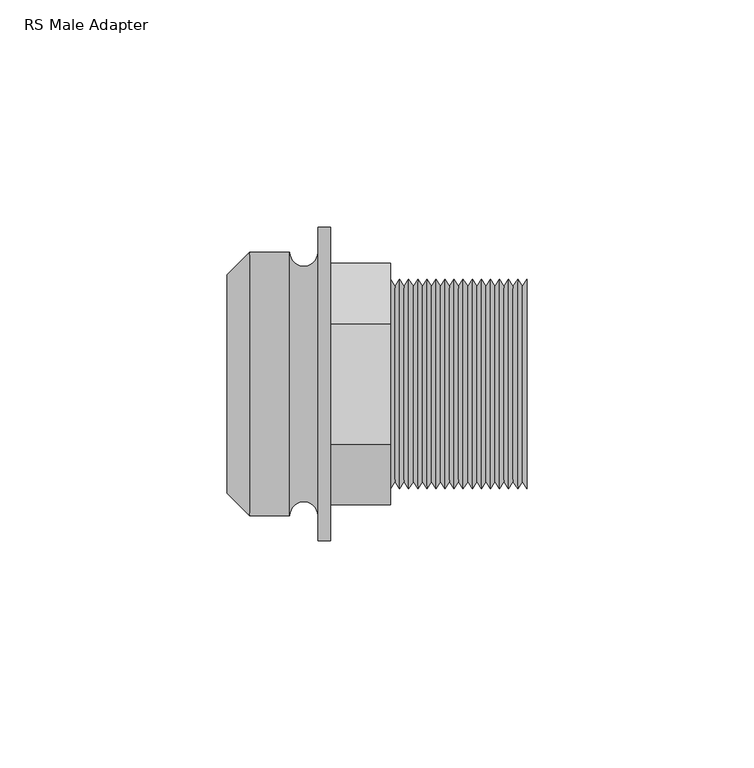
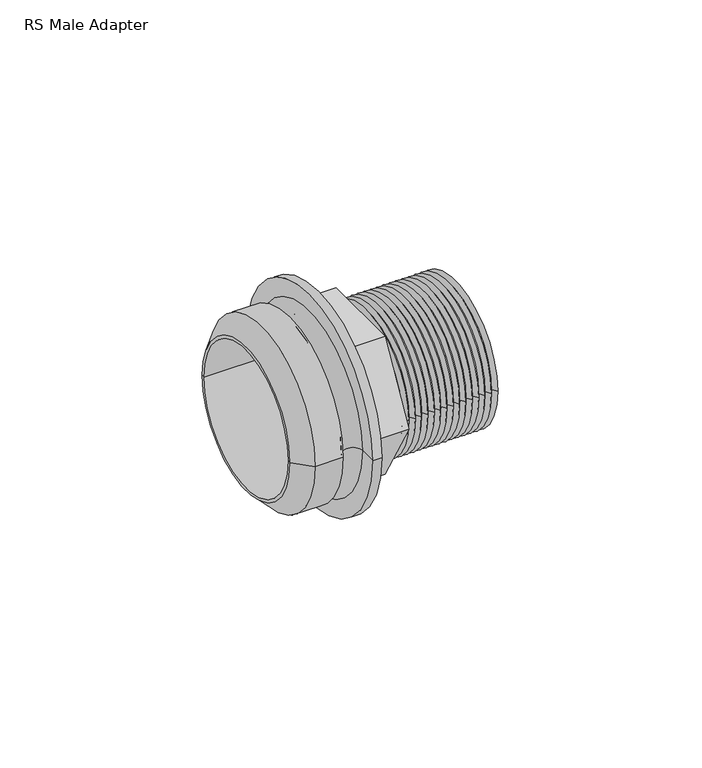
"""IFC4 building model written with IfcOpenShell, lengths in millimetres: pipe fitting geometry, RS Male Adapter : Superpipe RS2 MT Adapter 1 ½”."""

from ifc_helpers import new_model, si_unit, point, frame, origin, origin_2d, place, context, project, spatial, polyline, circle_curve, ellipse_curve, trimmed, segment, composite_curve, outline, extrude, source, transform, mapped, element, save
from ifc_brep_helpers import plane_surface, cylinder_surface, revolved_surface, advanced_brep


def rs_male_adapter_b5bc1ed4(model_context):
    return source(origin(), model_context, "Body", "SolidModel", [
        extrude(outline(polyline([(-26.5581124, 0.0), (-13.2790562, 23.0), (13.2790562, 23.0), (26.5581124, 0.0), (13.2790562, -23.0), (-13.2790562, -23.0), (-26.5581124, 0.0)]), holes=[composite_curve([segment(trimmed(circle_curve(origin_2d(), 18.8), [point((0.0, 18.8))], [point((0.0, -18.8))], True, "CARTESIAN"), True, "CONTINUOUS"), segment(trimmed(circle_curve(origin_2d(), 18.8), [point((0.0, -18.8))], [point((0.0, 18.8))], True, "CARTESIAN"), True, "CONTINUOUS")], self_intersect=False)]), frame((22.8, 0.0, 0.0), z_axis=(1.0, 0.0, 0.0), x_axis=(0.0, 1.0, 0.0)), (0.0, 0.0, 1.0), 13.2),
        advanced_brep(
        [(66.0, -23.0, 0.0), (66.0, 23.0, 0.0), (66.0, 18.8, 0.0), (66.0, -18.8, 0.0), (36.0, -18.8, 0.0), (36.0, 18.8, 0.0), (36.0, 23.0, 0.0), (36.0, -23.0, 0.0), (65.0, -21.5, 0.0), (65.0, 21.5, 0.0), (64.0, -23.0, 0.0), (64.0, 23.0, 0.0), (63.0, -21.5, 0.0), (63.0, 21.5, 0.0), (62.0, -23.0, 0.0), (62.0, 23.0, 0.0), (61.0, -21.5, 0.0), (61.0, 21.5, 0.0), (60.0, -23.0, 0.0), (60.0, 23.0, 0.0), (59.0, -21.5, 0.0), (59.0, 21.5, 0.0), (58.0, -23.0, 0.0), (58.0, 23.0, 0.0), (57.0, -21.5, 0.0), (57.0, 21.5, 0.0), (56.0, -23.0, 0.0), (56.0, 23.0, 0.0), (55.0, -21.5, 0.0), (55.0, 21.5, 0.0), (54.0, -23.0, 0.0), (54.0, 23.0, 0.0), (53.0, -21.5, 0.0), (53.0, 21.5, 0.0), (52.0, -23.0, 0.0), (52.0, 23.0, 0.0), (51.0, -21.5, 0.0), (51.0, 21.5, 0.0), (50.0, -23.0, 0.0), (50.0, 23.0, 0.0), (49.0, -21.5, 0.0), (49.0, 21.5, 0.0), (48.0, -23.0, 0.0), (48.0, 23.0, 0.0), (47.0, -21.5, 0.0), (47.0, 21.5, 0.0), (46.0, -23.0, 0.0), (46.0, 23.0, 0.0), (45.0, -21.5, 0.0), (45.0, 21.5, 0.0), (44.0, -23.0, 0.0), (44.0, 23.0, 0.0), (43.0, -21.5, 0.0), (43.0, 21.5, 0.0), (42.0, -23.0, 0.0), (42.0, 23.0, 0.0), (41.0, -21.5, 0.0), (41.0, 21.5, 0.0), (40.0, -23.0, 0.0), (40.0, 23.0, 0.0), (39.0, -21.5, 0.0), (39.0, 21.5, 0.0), (38.0, -23.0, 0.0), (38.0, 23.0, 0.0), (37.0, -21.5, 0.0), (37.0, 21.5, 0.0)],
        [
            (0, 1, circle_curve(frame((66.0, 0.0, 0.0), z_axis=(1.0, 0.0, 0.0), x_axis=(0.0, 1.0, 0.0)), 23.0)),
            (1, 2),
            (2, 3, circle_curve(frame((66.0, 0.0, 0.0), z_axis=(-1.0, 0.0, 0.0), x_axis=(0.0, 1.0, 0.0)), 18.8)),
            (3, 0),
            (4, 5, circle_curve(frame((36.0, 0.0, 0.0), z_axis=(1.0, 0.0, 0.0), x_axis=(0.0, 1.0, 0.0)), 18.8)),
            (5, 6),
            (6, 7, circle_curve(frame((36.0, 0.0, 0.0), z_axis=(-1.0, 0.0, 0.0), x_axis=(0.0, 1.0, 0.0)), 23.0)),
            (7, 4),
            (5, 4, circle_curve(frame((36.0, 0.0, 0.0), z_axis=(1.0, 0.0, 0.0), x_axis=(0.0, 1.0, 0.0)), 18.8)),
            (7, 6, circle_curve(frame((36.0, 0.0, 0.0), z_axis=(-1.0, 0.0, 0.0), x_axis=(0.0, 1.0, 0.0)), 23.0)),
            (1, 0, circle_curve(frame((66.0, 0.0, 0.0), z_axis=(1.0, 0.0, 0.0), x_axis=(0.0, 1.0, 0.0)), 23.0)),
            (3, 2, circle_curve(frame((66.0, 0.0, 0.0), z_axis=(-1.0, 0.0, 0.0), x_axis=(0.0, 1.0, 0.0)), 18.8)),
            (2, 5),
            (4, 3),
            (8, 9, circle_curve(frame((65.0, 0.0, 0.0), z_axis=(1.0, 0.0, 0.0), x_axis=(0.0, 1.0, 0.0)), 21.5)),
            (9, 1),
            (0, 8),
            (9, 8, circle_curve(frame((65.0, 0.0, 0.0), z_axis=(1.0, 0.0, 0.0), x_axis=(0.0, 1.0, 0.0)), 21.5)),
            (10, 11, circle_curve(frame((64.0, 0.0, 0.0), z_axis=(1.0, 0.0, 0.0), x_axis=(0.0, 1.0, 0.0)), 23.0)),
            (11, 9),
            (8, 10),
            (11, 10, circle_curve(frame((64.0, 0.0, 0.0), z_axis=(1.0, 0.0, 0.0), x_axis=(0.0, 1.0, 0.0)), 23.0)),
            (12, 13, circle_curve(frame((63.0, 0.0, 0.0), z_axis=(1.0, 0.0, 0.0), x_axis=(0.0, 1.0, 0.0)), 21.5)),
            (13, 11),
            (10, 12),
            (13, 12, circle_curve(frame((63.0, 0.0, 0.0), z_axis=(1.0, 0.0, 0.0), x_axis=(0.0, 1.0, 0.0)), 21.5)),
            (14, 15, circle_curve(frame((62.0, 0.0, 0.0), z_axis=(1.0, 0.0, 0.0), x_axis=(0.0, 1.0, 0.0)), 23.0)),
            (15, 13),
            (12, 14),
            (15, 14, circle_curve(frame((62.0, 0.0, 0.0), z_axis=(1.0, 0.0, 0.0), x_axis=(0.0, 1.0, 0.0)), 23.0)),
            (16, 17, circle_curve(frame((61.0, 0.0, 0.0), z_axis=(1.0, 0.0, 0.0), x_axis=(0.0, 1.0, 0.0)), 21.5)),
            (17, 15),
            (14, 16),
            (17, 16, circle_curve(frame((61.0, 0.0, 0.0), z_axis=(1.0, 0.0, 0.0), x_axis=(0.0, 1.0, 0.0)), 21.5)),
            (18, 19, circle_curve(frame((60.0, 0.0, 0.0), z_axis=(1.0, 0.0, 0.0), x_axis=(0.0, 1.0, 0.0)), 23.0)),
            (19, 17),
            (16, 18),
            (19, 18, circle_curve(frame((60.0, 0.0, 0.0), z_axis=(1.0, 0.0, 0.0), x_axis=(0.0, 1.0, 0.0)), 23.0)),
            (20, 21, circle_curve(frame((59.0, 0.0, 0.0), z_axis=(1.0, 0.0, 0.0), x_axis=(0.0, 1.0, 0.0)), 21.5)),
            (21, 19),
            (18, 20),
            (21, 20, circle_curve(frame((59.0, 0.0, 0.0), z_axis=(1.0, 0.0, 0.0), x_axis=(0.0, 1.0, 0.0)), 21.5)),
            (22, 23, circle_curve(frame((58.0, 0.0, 0.0), z_axis=(1.0, 0.0, 0.0), x_axis=(0.0, 1.0, 0.0)), 23.0)),
            (23, 21),
            (20, 22),
            (23, 22, circle_curve(frame((58.0, 0.0, 0.0), z_axis=(1.0, 0.0, 0.0), x_axis=(0.0, 1.0, 0.0)), 23.0)),
            (24, 25, circle_curve(frame((57.0, 0.0, 0.0), z_axis=(1.0, 0.0, 0.0), x_axis=(0.0, 1.0, 0.0)), 21.5)),
            (25, 23),
            (22, 24),
            (25, 24, circle_curve(frame((57.0, 0.0, 0.0), z_axis=(1.0, 0.0, 0.0), x_axis=(0.0, 1.0, 0.0)), 21.5)),
            (26, 27, circle_curve(frame((56.0, 0.0, 0.0), z_axis=(1.0, 0.0, 0.0), x_axis=(0.0, 1.0, 0.0)), 23.0)),
            (27, 25),
            (24, 26),
            (27, 26, circle_curve(frame((56.0, 0.0, 0.0), z_axis=(1.0, 0.0, 0.0), x_axis=(0.0, 1.0, 0.0)), 23.0)),
            (28, 29, circle_curve(frame((55.0, 0.0, 0.0), z_axis=(1.0, 0.0, 0.0), x_axis=(0.0, 1.0, 0.0)), 21.5)),
            (29, 27),
            (26, 28),
            (29, 28, circle_curve(frame((55.0, 0.0, 0.0), z_axis=(1.0, 0.0, 0.0), x_axis=(0.0, 1.0, 0.0)), 21.5)),
            (30, 31, circle_curve(frame((54.0, 0.0, 0.0), z_axis=(1.0, 0.0, 0.0), x_axis=(0.0, 1.0, 0.0)), 23.0)),
            (31, 29),
            (28, 30),
            (31, 30, circle_curve(frame((54.0, 0.0, 0.0), z_axis=(1.0, 0.0, 0.0), x_axis=(0.0, 1.0, 0.0)), 23.0)),
            (32, 33, circle_curve(frame((53.0, 0.0, 0.0), z_axis=(1.0, 0.0, 0.0), x_axis=(0.0, 1.0, 0.0)), 21.5)),
            (33, 31),
            (30, 32),
            (33, 32, circle_curve(frame((53.0, 0.0, 0.0), z_axis=(1.0, 0.0, 0.0), x_axis=(0.0, 1.0, 0.0)), 21.5)),
            (34, 35, circle_curve(frame((52.0, 0.0, 0.0), z_axis=(1.0, 0.0, 0.0), x_axis=(0.0, 1.0, 0.0)), 23.0)),
            (35, 33),
            (32, 34),
            (35, 34, circle_curve(frame((52.0, 0.0, 0.0), z_axis=(1.0, 0.0, 0.0), x_axis=(0.0, 1.0, 0.0)), 23.0)),
            (36, 37, circle_curve(frame((51.0, 0.0, 0.0), z_axis=(1.0, 0.0, 0.0), x_axis=(0.0, 1.0, 0.0)), 21.5)),
            (37, 35),
            (34, 36),
            (37, 36, circle_curve(frame((51.0, 0.0, 0.0), z_axis=(1.0, 0.0, 0.0), x_axis=(0.0, 1.0, 0.0)), 21.5)),
            (38, 39, circle_curve(frame((50.0, 0.0, 0.0), z_axis=(1.0, 0.0, 0.0), x_axis=(0.0, 1.0, 0.0)), 23.0)),
            (39, 37),
            (36, 38),
            (39, 38, circle_curve(frame((50.0, 0.0, 0.0), z_axis=(1.0, 0.0, 0.0), x_axis=(0.0, 1.0, 0.0)), 23.0)),
            (40, 41, circle_curve(frame((49.0, 0.0, 0.0), z_axis=(1.0, 0.0, 0.0), x_axis=(0.0, 1.0, 0.0)), 21.5)),
            (41, 39),
            (38, 40),
            (41, 40, circle_curve(frame((49.0, 0.0, 0.0), z_axis=(1.0, 0.0, 0.0), x_axis=(0.0, 1.0, 0.0)), 21.5)),
            (42, 43, circle_curve(frame((48.0, 0.0, 0.0), z_axis=(1.0, 0.0, 0.0), x_axis=(0.0, 1.0, 0.0)), 23.0)),
            (43, 41),
            (40, 42),
            (43, 42, circle_curve(frame((48.0, 0.0, 0.0), z_axis=(1.0, 0.0, 0.0), x_axis=(0.0, 1.0, 0.0)), 23.0)),
            (44, 45, circle_curve(frame((47.0, 0.0, 0.0), z_axis=(1.0, 0.0, 0.0), x_axis=(0.0, 1.0, 0.0)), 21.5)),
            (45, 43),
            (42, 44),
            (45, 44, circle_curve(frame((47.0, 0.0, 0.0), z_axis=(1.0, 0.0, 0.0), x_axis=(0.0, 1.0, 0.0)), 21.5)),
            (46, 47, circle_curve(frame((46.0, 0.0, 0.0), z_axis=(1.0, 0.0, 0.0), x_axis=(0.0, 1.0, 0.0)), 23.0)),
            (47, 45),
            (44, 46),
            (47, 46, circle_curve(frame((46.0, 0.0, 0.0), z_axis=(1.0, 0.0, 0.0), x_axis=(0.0, 1.0, 0.0)), 23.0)),
            (48, 49, circle_curve(frame((45.0, 0.0, 0.0), z_axis=(1.0, 0.0, 0.0), x_axis=(0.0, 1.0, 0.0)), 21.5)),
            (49, 47),
            (46, 48),
            (49, 48, circle_curve(frame((45.0, 0.0, 0.0), z_axis=(1.0, 0.0, 0.0), x_axis=(0.0, 1.0, 0.0)), 21.5)),
            (50, 51, circle_curve(frame((44.0, 0.0, 0.0), z_axis=(1.0, 0.0, 0.0), x_axis=(0.0, 1.0, 0.0)), 23.0)),
            (51, 49),
            (48, 50),
            (51, 50, circle_curve(frame((44.0, 0.0, 0.0), z_axis=(1.0, 0.0, 0.0), x_axis=(0.0, 1.0, 0.0)), 23.0)),
            (52, 53, circle_curve(frame((43.0, 0.0, 0.0), z_axis=(1.0, 0.0, 0.0), x_axis=(0.0, 1.0, 0.0)), 21.5)),
            (53, 51),
            (50, 52),
            (53, 52, circle_curve(frame((43.0, 0.0, 0.0), z_axis=(1.0, 0.0, 0.0), x_axis=(0.0, 1.0, 0.0)), 21.5)),
            (54, 55, circle_curve(frame((42.0, 0.0, 0.0), z_axis=(1.0, 0.0, 0.0), x_axis=(0.0, 1.0, 0.0)), 23.0)),
            (55, 53),
            (52, 54),
            (55, 54, circle_curve(frame((42.0, 0.0, 0.0), z_axis=(1.0, 0.0, 0.0), x_axis=(0.0, 1.0, 0.0)), 23.0)),
            (56, 57, circle_curve(frame((41.0, 0.0, 0.0), z_axis=(1.0, 0.0, 0.0), x_axis=(0.0, 1.0, 0.0)), 21.5)),
            (57, 55),
            (54, 56),
            (57, 56, circle_curve(frame((41.0, 0.0, 0.0), z_axis=(1.0, 0.0, 0.0), x_axis=(0.0, 1.0, 0.0)), 21.5)),
            (58, 59, circle_curve(frame((40.0, 0.0, 0.0), z_axis=(1.0, 0.0, 0.0), x_axis=(0.0, 1.0, 0.0)), 23.0)),
            (59, 57),
            (56, 58),
            (59, 58, circle_curve(frame((40.0, 0.0, 0.0), z_axis=(1.0, 0.0, 0.0), x_axis=(0.0, 1.0, 0.0)), 23.0)),
            (60, 61, circle_curve(frame((39.0, 0.0, 0.0), z_axis=(1.0, 0.0, 0.0), x_axis=(0.0, 1.0, 0.0)), 21.5)),
            (61, 59),
            (58, 60),
            (61, 60, circle_curve(frame((39.0, 0.0, 0.0), z_axis=(1.0, 0.0, 0.0), x_axis=(0.0, 1.0, 0.0)), 21.5)),
            (62, 63, circle_curve(frame((38.0, 0.0, 0.0), z_axis=(1.0, 0.0, 0.0), x_axis=(0.0, 1.0, 0.0)), 23.0)),
            (63, 61),
            (60, 62),
            (63, 62, circle_curve(frame((38.0, 0.0, 0.0), z_axis=(1.0, 0.0, 0.0), x_axis=(0.0, 1.0, 0.0)), 23.0)),
            (64, 65, circle_curve(frame((37.0, 0.0, 0.0), z_axis=(1.0, 0.0, 0.0), x_axis=(0.0, 1.0, 0.0)), 21.5)),
            (65, 63),
            (62, 64),
            (65, 64, circle_curve(frame((37.0, 0.0, 0.0), z_axis=(1.0, 0.0, 0.0), x_axis=(0.0, 1.0, 0.0)), 21.5)),
            (6, 65),
            (64, 7),
        ],
        [
            plane_surface(frame((66.0, 0.0, 0.0), z_axis=(1.0, 0.0, 0.0), x_axis=(0.0, 1.0, 0.0))),
            plane_surface(frame((36.0, 0.0, 0.0), z_axis=(-1.0, 0.0, 0.0), x_axis=(0.0, 1.0, 0.0))),
            revolved_surface(polyline([(36.0, 18.8, 0.0), (66.0, 18.8, 0.0)]), (2000.0, 0.0, 0.0), (-1.0, 0.0, 0.0)),
            revolved_surface(polyline([(66.0, 23.0, 0.0), (65.0, 21.5, 0.0)]), (2000.0, 0.0, 0.0), (-1.0, 0.0, 0.0)),
            revolved_surface(polyline([(65.0, 21.5, 0.0), (64.0, 23.0, 0.0)]), (2000.0, 0.0, 0.0), (-1.0, 0.0, 0.0)),
            revolved_surface(polyline([(64.0, 23.0, 0.0), (63.0, 21.5, 0.0)]), (2000.0, 0.0, 0.0), (-1.0, 0.0, 0.0)),
            revolved_surface(polyline([(63.0, 21.5, 0.0), (62.0, 23.0, 0.0)]), (2000.0, 0.0, 0.0), (-1.0, 0.0, 0.0)),
            revolved_surface(polyline([(62.0, 23.0, 0.0), (61.0, 21.5, 0.0)]), (2000.0, 0.0, 0.0), (-1.0, 0.0, 0.0)),
            revolved_surface(polyline([(61.0, 21.5, 0.0), (60.0, 23.0, 0.0)]), (2000.0, 0.0, 0.0), (-1.0, 0.0, 0.0)),
            revolved_surface(polyline([(60.0, 23.0, 0.0), (59.0, 21.5, 0.0)]), (2000.0, 0.0, 0.0), (-1.0, 0.0, 0.0)),
            revolved_surface(polyline([(59.0, 21.5, 0.0), (58.0, 23.0, 0.0)]), (2000.0, 0.0, 0.0), (-1.0, 0.0, 0.0)),
            revolved_surface(polyline([(58.0, 23.0, 0.0), (57.0, 21.5, 0.0)]), (2000.0, 0.0, 0.0), (-1.0, 0.0, 0.0)),
            revolved_surface(polyline([(57.0, 21.5, 0.0), (56.0, 23.0, 0.0)]), (2000.0, 0.0, 0.0), (-1.0, 0.0, 0.0)),
            revolved_surface(polyline([(56.0, 23.0, 0.0), (55.0, 21.5, 0.0)]), (2000.0, 0.0, 0.0), (-1.0, 0.0, 0.0)),
            revolved_surface(polyline([(55.0, 21.5, 0.0), (54.0, 23.0, 0.0)]), (2000.0, 0.0, 0.0), (-1.0, 0.0, 0.0)),
            revolved_surface(polyline([(54.0, 23.0, 0.0), (53.0, 21.5, 0.0)]), (2000.0, 0.0, 0.0), (-1.0, 0.0, 0.0)),
            revolved_surface(polyline([(53.0, 21.5, 0.0), (52.0, 23.0, 0.0)]), (2000.0, 0.0, 0.0), (-1.0, 0.0, 0.0)),
            revolved_surface(polyline([(52.0, 23.0, 0.0), (51.0, 21.5, 0.0)]), (2000.0, 0.0, 0.0), (-1.0, 0.0, 0.0)),
            revolved_surface(polyline([(51.0, 21.5, 0.0), (50.0, 23.0, 0.0)]), (2000.0, 0.0, 0.0), (-1.0, 0.0, 0.0)),
            revolved_surface(polyline([(50.0, 23.0, 0.0), (49.0, 21.5, 0.0)]), (2000.0, 0.0, 0.0), (-1.0, 0.0, 0.0)),
            revolved_surface(polyline([(49.0, 21.5, 0.0), (48.0, 23.0, 0.0)]), (2000.0, 0.0, 0.0), (-1.0, 0.0, 0.0)),
            revolved_surface(polyline([(48.0, 23.0, 0.0), (47.0, 21.5, 0.0)]), (2000.0, 0.0, 0.0), (-1.0, 0.0, 0.0)),
            revolved_surface(polyline([(47.0, 21.5, 0.0), (46.0, 23.0, 0.0)]), (2000.0, 0.0, 0.0), (-1.0, 0.0, 0.0)),
            revolved_surface(polyline([(46.0, 23.0, 0.0), (45.0, 21.5, 0.0)]), (2000.0, 0.0, 0.0), (-1.0, 0.0, 0.0)),
            revolved_surface(polyline([(45.0, 21.5, 0.0), (44.0, 23.0, 0.0)]), (2000.0, 0.0, 0.0), (-1.0, 0.0, 0.0)),
            revolved_surface(polyline([(44.0, 23.0, 0.0), (43.0, 21.5, 0.0)]), (2000.0, 0.0, 0.0), (-1.0, 0.0, 0.0)),
            revolved_surface(polyline([(43.0, 21.5, 0.0), (42.0, 23.0, 0.0)]), (2000.0, 0.0, 0.0), (-1.0, 0.0, 0.0)),
            revolved_surface(polyline([(42.0, 23.0, 0.0), (41.0, 21.5, 0.0)]), (2000.0, 0.0, 0.0), (-1.0, 0.0, 0.0)),
            revolved_surface(polyline([(41.0, 21.5, 0.0), (40.0, 23.0, 0.0)]), (2000.0, 0.0, 0.0), (-1.0, 0.0, 0.0)),
            revolved_surface(polyline([(40.0, 23.0, 0.0), (39.0, 21.5, 0.0)]), (2000.0, 0.0, 0.0), (-1.0, 0.0, 0.0)),
            revolved_surface(polyline([(39.0, 21.5, 0.0), (38.0, 23.0, 0.0)]), (2000.0, 0.0, 0.0), (-1.0, 0.0, 0.0)),
            revolved_surface(polyline([(38.0, 23.0, 0.0), (37.0, 21.5, 0.0)]), (2000.0, 0.0, 0.0), (-1.0, 0.0, 0.0)),
            revolved_surface(polyline([(37.0, 21.5, 0.0), (36.0, 23.0, 0.0)]), (2000.0, 0.0, 0.0), (-1.0, 0.0, 0.0)),
        ],
        [
            (0, [[1, 2, 3, 4]]),
            (1, [[5, 6, 7, 8]]),
            (1, [[9, -8, 10, -6]]),
            (0, [[11, -4, 12, -2]]),
            (2, [[-3, 13, -5, 14]]),
            (2, [[-12, -14, -9, -13]]),
            (3, [[15, 16, -1, 17]]),
            (3, [[18, -17, -11, -16]]),
            (4, [[19, 20, -15, 21]]),
            (4, [[22, -21, -18, -20]]),
            (5, [[23, 24, -19, 25]]),
            (5, [[26, -25, -22, -24]]),
            (6, [[27, 28, -23, 29]]),
            (6, [[30, -29, -26, -28]]),
            (7, [[31, 32, -27, 33]]),
            (7, [[34, -33, -30, -32]]),
            (8, [[35, 36, -31, 37]]),
            (8, [[38, -37, -34, -36]]),
            (9, [[39, 40, -35, 41]]),
            (9, [[42, -41, -38, -40]]),
            (10, [[43, 44, -39, 45]]),
            (10, [[46, -45, -42, -44]]),
            (11, [[47, 48, -43, 49]]),
            (11, [[50, -49, -46, -48]]),
            (12, [[51, 52, -47, 53]]),
            (12, [[54, -53, -50, -52]]),
            (13, [[55, 56, -51, 57]]),
            (13, [[58, -57, -54, -56]]),
            (14, [[59, 60, -55, 61]]),
            (14, [[62, -61, -58, -60]]),
            (15, [[63, 64, -59, 65]]),
            (15, [[66, -65, -62, -64]]),
            (16, [[67, 68, -63, 69]]),
            (16, [[70, -69, -66, -68]]),
            (17, [[71, 72, -67, 73]]),
            (17, [[74, -73, -70, -72]]),
            (18, [[75, 76, -71, 77]]),
            (18, [[78, -77, -74, -76]]),
            (19, [[79, 80, -75, 81]]),
            (19, [[82, -81, -78, -80]]),
            (20, [[83, 84, -79, 85]]),
            (20, [[86, -85, -82, -84]]),
            (21, [[87, 88, -83, 89]]),
            (21, [[90, -89, -86, -88]]),
            (22, [[91, 92, -87, 93]]),
            (22, [[94, -93, -90, -92]]),
            (23, [[95, 96, -91, 97]]),
            (23, [[98, -97, -94, -96]]),
            (24, [[99, 100, -95, 101]]),
            (24, [[102, -101, -98, -100]]),
            (25, [[103, 104, -99, 105]]),
            (25, [[106, -105, -102, -104]]),
            (26, [[107, 108, -103, 109]]),
            (26, [[110, -109, -106, -108]]),
            (27, [[111, 112, -107, 113]]),
            (27, [[114, -113, -110, -112]]),
            (28, [[115, 116, -111, 117]]),
            (28, [[118, -117, -114, -116]]),
            (29, [[119, 120, -115, 121]]),
            (29, [[122, -121, -118, -120]]),
            (30, [[123, 124, -119, 125]]),
            (30, [[126, -125, -122, -124]]),
            (31, [[127, 128, -123, 129]]),
            (31, [[130, -129, -126, -128]]),
            (32, [[-7, 131, -127, 132]]),
            (32, [[-10, -132, -130, -131]]),
        ],
    ),
        advanced_brep(
        [(20.0, -34.5, 0.0), (20.0, 34.5, 0.0), (22.8, 34.5, 0.0), (22.8, -34.5, 0.0), (20.0, -29.0, 0.0), (20.0, 29.0, 0.0), (22.8, -23.0, 0.0), (22.8, 23.0, 0.0), (0.0, 23.0, 0.0), (0.0, -23.0, 0.0), (0.0, -24.0, 0.0), (0.0, 24.0, 0.0), (5.0, 29.0, 0.0), (5.0, -29.0, 0.0), (13.8, -29.0, 0.0), (13.8, 29.0, 0.0)],
        [
            (0, 1, circle_curve(frame((20.0, 0.0, 0.0), z_axis=(1.0, 0.0, 0.0), x_axis=(0.0, 1.0, 0.0)), 34.5)),
            (1, 2),
            (2, 3, circle_curve(frame((22.8, 0.0, 0.0), z_axis=(-1.0, 0.0, 0.0), x_axis=(0.0, 1.0, 0.0)), 34.5)),
            (3, 0),
            (1, 0, circle_curve(frame((20.0, 0.0, 0.0), z_axis=(1.0, 0.0, 0.0), x_axis=(0.0, 1.0, 0.0)), 34.5)),
            (3, 2, circle_curve(frame((22.8, 0.0, 0.0), z_axis=(-1.0, 0.0, 0.0), x_axis=(0.0, 1.0, 0.0)), 34.5)),
            (4, 5, circle_curve(frame((20.0, 0.0, 0.0), z_axis=(1.0, 0.0, 0.0), x_axis=(0.0, 1.0, 0.0)), 29.0)),
            (5, 1),
            (0, 4),
            (5, 4, circle_curve(frame((20.0, 0.0, 0.0), z_axis=(1.0, 0.0, 0.0), x_axis=(0.0, 1.0, 0.0)), 29.0)),
            (6, 7, circle_curve(frame((22.8, 0.0, 0.0), z_axis=(1.0, 0.0, 0.0), x_axis=(0.0, 1.0, 0.0)), 23.0)),
            (7, 8),
            (8, 9, circle_curve(frame((0.0, 0.0, 0.0), z_axis=(-1.0, 0.0, 0.0), x_axis=(0.0, 1.0, 0.0)), 23.0)),
            (9, 6),
            (7, 6, circle_curve(frame((22.8, 0.0, 0.0), z_axis=(1.0, 0.0, 0.0), x_axis=(0.0, 1.0, 0.0)), 23.0)),
            (9, 8, circle_curve(frame((0.0, 0.0, 0.0), z_axis=(-1.0, 0.0, 0.0), x_axis=(0.0, 1.0, 0.0)), 23.0)),
            (2, 7),
            (6, 3),
            (10, 11, circle_curve(frame((0.0, 0.0, 0.0), z_axis=(1.0, 0.0, 0.0), x_axis=(0.0, 1.0, 0.0)), 24.0)),
            (11, 12),
            (12, 13, circle_curve(frame((5.0, 0.0, 0.0), z_axis=(-1.0, 0.0, 0.0), x_axis=(0.0, 1.0, 0.0)), 29.0)),
            (13, 10),
            (11, 10, circle_curve(frame((0.0, 0.0, 0.0), z_axis=(1.0, 0.0, 0.0), x_axis=(0.0, 1.0, 0.0)), 24.0)),
            (13, 12, circle_curve(frame((5.0, 0.0, 0.0), z_axis=(-1.0, 0.0, 0.0), x_axis=(0.0, 1.0, 0.0)), 29.0)),
            (8, 11),
            (10, 9),
            (14, 15, circle_curve(frame((13.8, 0.0, 0.0), z_axis=(1.0, 0.0, 0.0), x_axis=(0.0, 1.0, 0.0)), 29.0)),
            (15, 5, circle_curve(frame((16.9, 29.0, 0.0), z_axis=(0.0, 0.0, 1.0), x_axis=(1.0, 0.0, 0.0)), 3.1)),
            (4, 14, circle_curve(frame((16.9, -29.0, 0.0), z_axis=(0.0, 0.0, 1.0), x_axis=(1.0, 0.0, 0.0)), 3.1)),
            (15, 14, circle_curve(frame((13.8, 0.0, 0.0), z_axis=(1.0, 0.0, 0.0), x_axis=(0.0, 1.0, 0.0)), 29.0)),
            (12, 15),
            (14, 13),
        ],
        [
            cylinder_surface(frame((1986.0, 0.0, 0.0), z_axis=(-1.0, 0.0, 0.0), x_axis=(0.0, 1.0, 0.0)), 34.5),
            plane_surface(frame((20.0, 0.0, 0.0), z_axis=(-1.0, 0.0, 0.0), x_axis=(0.0, 1.0, 0.0))),
            revolved_surface(polyline([(0.0, 23.0, 0.0), (22.799999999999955, 23.0, 0.0)]), (1986.0, 0.0, 0.0), (-1.0, 0.0, 0.0)),
            plane_surface(frame((22.8, 0.0, 0.0), z_axis=(1.0, 0.0, 0.0), x_axis=(0.0, 1.0, 0.0))),
            revolved_surface(polyline([(5.0, 29.0, 0.0), (0.0, 24.0, 0.0)]), (1986.0, 0.0, 0.0), (-1.0, 0.0, 0.0)),
            plane_surface(frame((0.0, 0.0, 0.0), z_axis=(-1.0, 0.0, 0.0), x_axis=(0.0, 1.0, 0.0))),
            revolved_surface(trimmed(ellipse_curve(frame((16.9, 29.0, 0.0), z_axis=(0.0, 0.0, -1.0), x_axis=(1.0, 0.0, 0.0)), 3.1, 3.1), [point((20.0, 29.0, 0.0))], [point((13.8, 29.0, 0.0))], True, "CARTESIAN"), (1986.0, 0.0, 0.0), (-1.0, 0.0, 0.0)),
            cylinder_surface(frame((1986.0, 0.0, 0.0), z_axis=(-1.0, 0.0, 0.0), x_axis=(0.0, 1.0, 0.0)), 29.0),
        ],
        [
            (0, [[1, 2, 3, 4]]),
            (0, [[5, -4, 6, -2]]),
            (1, [[7, 8, -1, 9]]),
            (1, [[10, -9, -5, -8]]),
            (2, [[11, 12, 13, 14]]),
            (2, [[15, -14, 16, -12]]),
            (3, [[-3, 17, -11, 18]]),
            (3, [[-6, -18, -15, -17]]),
            (4, [[19, 20, 21, 22]]),
            (4, [[23, -22, 24, -20]]),
            (5, [[-13, 25, -19, 26]]),
            (5, [[-16, -26, -23, -25]]),
            (6, [[27, 28, -7, 29]]),
            (6, [[30, -29, -10, -28]]),
            (7, [[-21, 31, -27, 32]]),
            (7, [[-24, -32, -30, -31]]),
        ],
    ),
    ])


if __name__ == "__main__":
    model = new_model("IFC4")
    model_context = context("Model", 3, world=origin())
    ifc_project = project(units=[si_unit("LENGTHUNIT", "METRE", prefix="MILLI")], contexts=[model_context])
    site = spatial("IfcSite", under=ifc_project)
    building = spatial("IfcBuilding", under=site)
    placement = place(None, origin())
    rs_male_adapter_shape = rs_male_adapter_b5bc1ed4(model_context)
    element("IfcPipeFitting", 1, ObjectType="RS Male Adapter : Superpipe RS2 MT Adapter 1 ½”", at=placement, inside=building, context=model_context, shape_type="MappedRepresentation", body=[
        mapped(rs_male_adapter_shape, transform((0.0, 0.0, 0.0), x_axis=(1.0, 0.0, 0.0), y_axis=(0.0, 1.0, 0.0), z_axis=(0.0, 0.0, 1.0))),
    ])
    save(model, "model.ifc")
